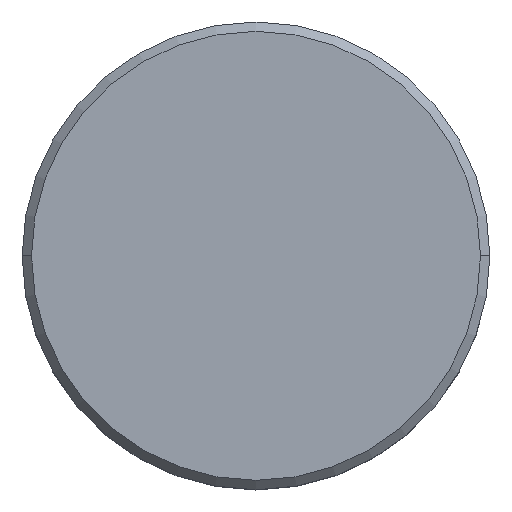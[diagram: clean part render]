
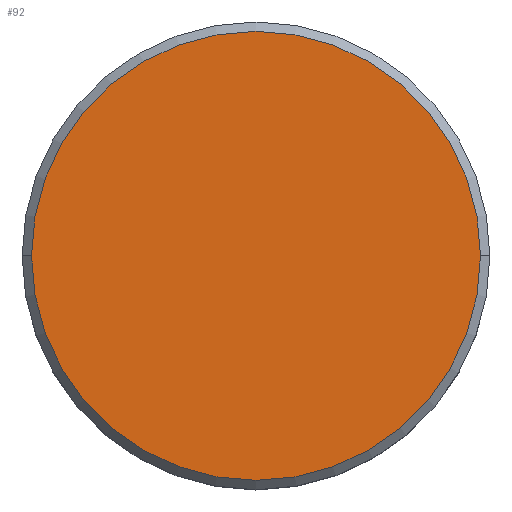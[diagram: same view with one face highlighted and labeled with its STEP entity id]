
A CAD part, top view. The second image highlights one B-rep face of the part: STEP entity #92.
In plain terms, the highlighted planar face has unit normal (0, 0, 1).
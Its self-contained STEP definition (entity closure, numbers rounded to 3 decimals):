
#11 = CARTESIAN_POINT ( 'NONE',  ( 12., 0., 10. ) ) ;
#36 = DIRECTION ( 'NONE',  ( -1., 0., 0. ) ) ;
#38 = VERTEX_POINT ( 'NONE', #11 ) ;
#39 = EDGE_CURVE ( 'NONE', #232, #38, #109, .T. ) ;
#61 = DIRECTION ( 'NONE',  ( -1., 0., 0. ) ) ;
#62 = AXIS2_PLACEMENT_3D ( 'NONE', #65, #172, #36 ) ;
#65 = CARTESIAN_POINT ( 'NONE',  ( 0., 0., 10. ) ) ;
#72 = EDGE_CURVE ( 'NONE', #38, #232, #113, .T. ) ;
#89 = CARTESIAN_POINT ( 'NONE',  ( 12.5, 0., 10. ) ) ;
#92 = ADVANCED_FACE ( 'NONE', ( #248 ), #100, .F. ) ;
#96 = CARTESIAN_POINT ( 'NONE',  ( 0., 0., 10. ) ) ;
#100 = PLANE ( 'NONE',  #304 ) ;
#109 = CIRCLE ( 'NONE', #163, 12. ) ;
#113 = CIRCLE ( 'NONE', #62, 12. ) ;
#123 = DIRECTION ( 'NONE',  ( 0., 0., 1. ) ) ;
#163 = AXIS2_PLACEMENT_3D ( 'NONE', #96, #123, #61 ) ;
#172 = DIRECTION ( 'NONE',  ( 0., 0., 1. ) ) ;
#211 = ORIENTED_EDGE ( 'NONE', *, *, #72, .T. ) ;
#232 = VERTEX_POINT ( 'NONE', #245 ) ;
#245 = CARTESIAN_POINT ( 'NONE',  ( -12., 0., 10. ) ) ;
#248 = FACE_OUTER_BOUND ( 'NONE', #283, .T. ) ;
#259 = DIRECTION ( 'NONE',  ( -1., 0., 0. ) ) ;
#283 = EDGE_LOOP ( 'NONE', ( #317, #211 ) ) ;
#304 = AXIS2_PLACEMENT_3D ( 'NONE', #89, #351, #259 ) ;
#317 = ORIENTED_EDGE ( 'NONE', *, *, #39, .T. ) ;
#351 = DIRECTION ( 'NONE',  ( 0., 0., -1. ) ) ;
